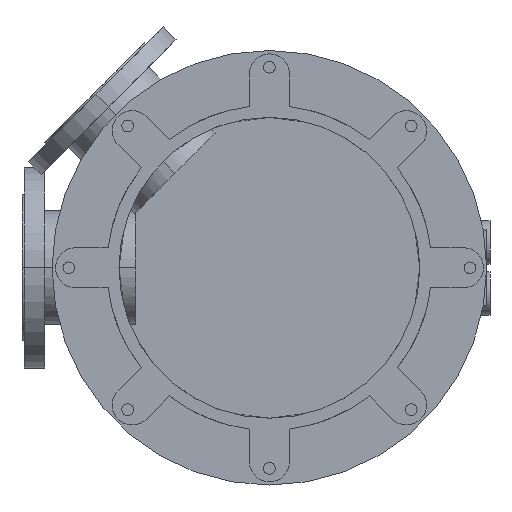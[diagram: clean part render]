
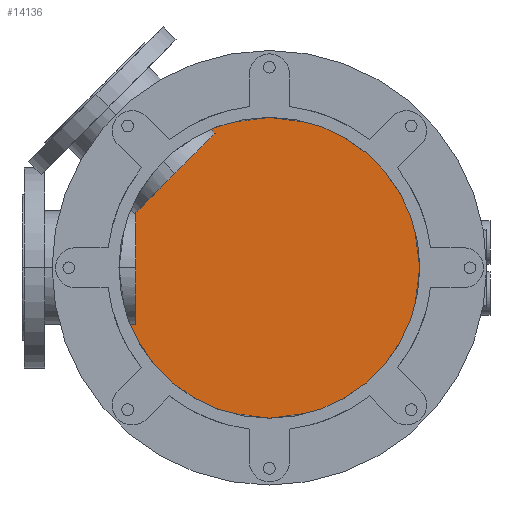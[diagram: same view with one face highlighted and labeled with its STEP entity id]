
A CAD part, front view. The second image highlights one B-rep face of the part: STEP entity #14136.
In plain terms, the highlighted planar face has unit normal (0, -1, 0).
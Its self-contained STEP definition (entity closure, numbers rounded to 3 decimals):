
#2795=CARTESIAN_POINT('',(0.,1172.,0.));
#2796=DIRECTION('',(0.,-1.,0.));
#2797=DIRECTION('',(0.,0.,1.));
#2798=AXIS2_PLACEMENT_3D('',#2795,#2796,#2797);
#2964=CARTESIAN_POINT('',(0.,1172.,0.));
#2965=DIRECTION('',(0.,-1.,0.));
#2966=DIRECTION('',(0.,0.,-1.));
#2967=AXIS2_PLACEMENT_3D('',#2964,#2965,#2966);
#9169=CARTESIAN_POINT('',(0.,1172.,240.));
#9170=CARTESIAN_POINT('',(0.,1172.,-240.));
#9171=VERTEX_POINT('',#9169);
#9172=VERTEX_POINT('',#9170);
#14126=CARTESIAN_POINT('',(0.,1172.,0.));
#14127=DIRECTION('',(0.,1.,0.));
#14128=DIRECTION('',(0.,0.,-1.));
#14129=AXIS2_PLACEMENT_3D('',#14126,#14127,#14128);
#14130=PLANE('',#14129);
#14131=ORIENTED_EDGE('',*,*,#14104,.F.);
#14133=ORIENTED_EDGE('',*,*,#14132,.F.);
#14134=EDGE_LOOP('',(#14131,#14133));
#14135=FACE_OUTER_BOUND('',#14134,.F.);
#14136=ADVANCED_FACE('',(#14135),#14130,.F.);
#2799=CIRCLE('',#2798,240.);
#2968=CIRCLE('',#2967,240.);
#14104=EDGE_CURVE('',#9171,#9172,#2799,.T.);
#14132=EDGE_CURVE('',#9172,#9171,#2968,.T.);
